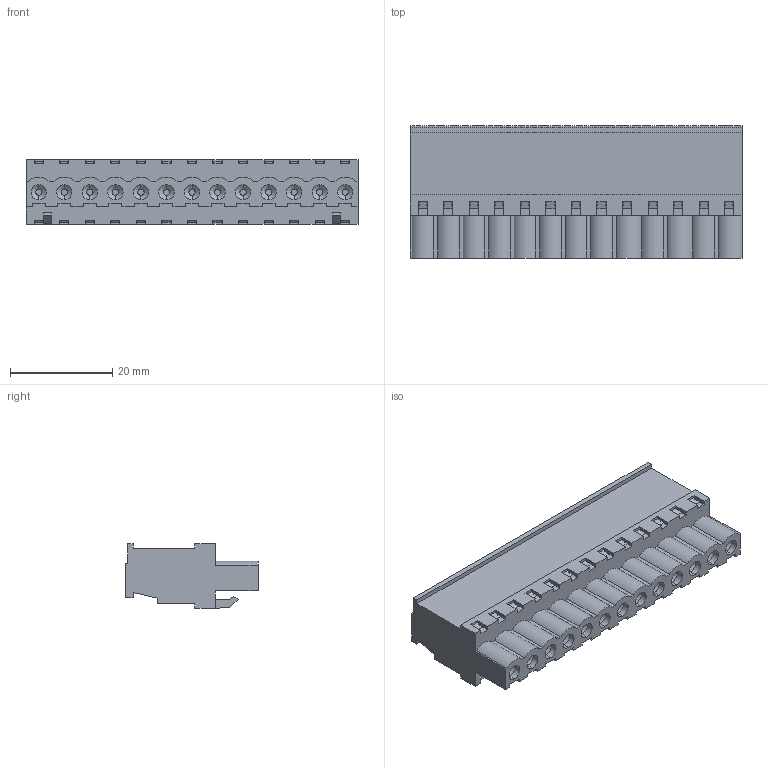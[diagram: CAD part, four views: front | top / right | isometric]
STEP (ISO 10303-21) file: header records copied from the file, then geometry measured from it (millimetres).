
FILE_DESCRIPTION((''),'2;1');
FILE_NAME('395233013','2015-02-09T',('me'),(''),'PRO/ENGINEER BY PARAMETRIC TECHNOLOGY CORPORATION, 2011490','PRO/ENGINEER BY PARAMETRIC TECHNOLOGY CORPORATION, 2011490','');
FILE_SCHEMA(('CONFIG_CONTROL_DESIGN'));
Length unit declared in the file: inch
Products named in the file (1): 395233013
Bounding box: 65 x 25.91 x 12.7 mm (x, y, z)
Volume: 14250.9 mm3; surface area: 6851.3 mm2
Topology: 1 solids, 1 shells, 736 faces, 1940 edges, 1284 vertices
Faces by surface type: plane 593, cylinder 65, cone 52, torus 26
Entity records: 22635 total; most frequent: CARTESIAN_POINT 4399, ORIENTED_EDGE 3854, DIRECTION 3544, EDGE_CURVE 1927, VECTOR 1602, LINE 1602, VERTEX_POINT 1258, AXIS2_PLACEMENT_3D 971
